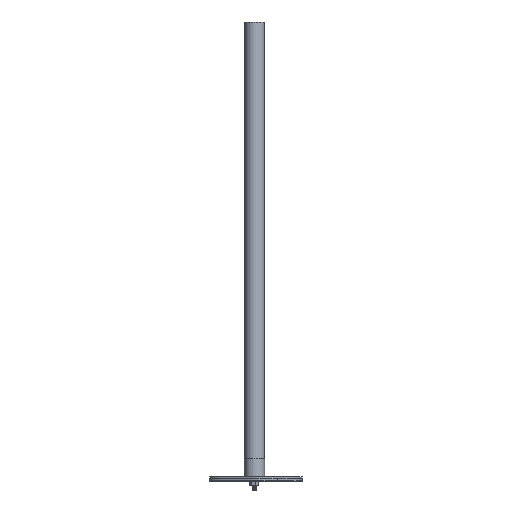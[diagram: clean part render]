
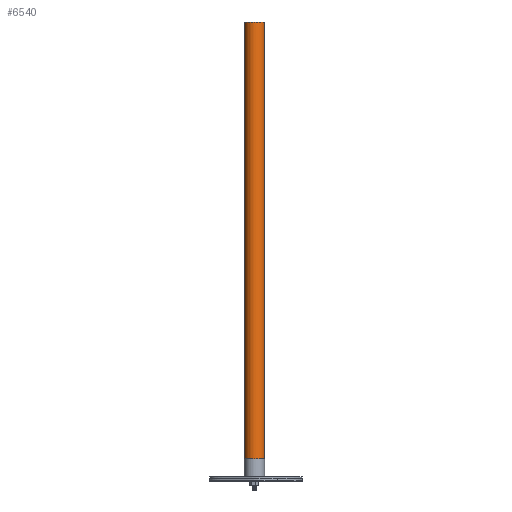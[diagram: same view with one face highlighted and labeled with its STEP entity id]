
A CAD part, front view. The second image highlights one B-rep face of the part: STEP entity #6540.
In plain terms, the highlighted cylindrical face has radius 13.716 mm (diameter 27.432 mm), a partial arc.
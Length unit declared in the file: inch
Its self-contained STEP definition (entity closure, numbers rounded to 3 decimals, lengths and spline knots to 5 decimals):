
#97 = EDGE_CURVE ( 'NONE', #12622, #8473, #13070, .T. ) ;
#517 = DIRECTION ( 'NONE',  ( 0., 0., -1. ) ) ;
#584 = EDGE_LOOP ( 'NONE', ( #4578, #8534, #12749, #1018 ) ) ;
#671 = DIRECTION ( 'NONE',  ( 1., 0., 0. ) ) ;
#672 = CARTESIAN_POINT ( 'NONE',  ( 0., 0., 0.54 ) ) ;
#1018 = ORIENTED_EDGE ( 'NONE', *, *, #14454, .F. ) ;
#2168 = VERTEX_POINT ( 'NONE', #5188 ) ;
#2330 = CARTESIAN_POINT ( 'NONE',  ( 0., 0., -0.54 ) ) ;
#2592 = LINE ( 'NONE', #2330, #13861 ) ;
#2649 = AXIS2_PLACEMENT_3D ( 'NONE', #6604, #6644, #6863 ) ;
#3654 = CARTESIAN_POINT ( 'NONE',  ( 0., 0., 0. ) ) ;
#3844 = LINE ( 'NONE', #9576, #7914 ) ;
#4578 = ORIENTED_EDGE ( 'NONE', *, *, #15845, .F. ) ;
#5188 = CARTESIAN_POINT ( 'NONE',  ( 0., 0., -0.54 ) ) ;
#6508 = DIRECTION ( 'NONE',  ( 1., 0., 0. ) ) ;
#6540 = ADVANCED_FACE ( 'NONE', ( #18843 ), #13807, .T. ) ;
#6604 = CARTESIAN_POINT ( 'NONE',  ( -24., 0., 0. ) ) ;
#6644 = DIRECTION ( 'NONE',  ( 1., 0., 0. ) ) ;
#6665 = CARTESIAN_POINT ( 'NONE',  ( -24., 0., -0.54 ) ) ;
#6863 = DIRECTION ( 'NONE',  ( 0., 0., -1. ) ) ;
#7914 = VECTOR ( 'NONE', #6508, 39.37008 ) ;
#8473 = VERTEX_POINT ( 'NONE', #6665 ) ;
#8534 = ORIENTED_EDGE ( 'NONE', *, *, #97, .T. ) ;
#9576 = CARTESIAN_POINT ( 'NONE',  ( 0., 0., 0.54 ) ) ;
#9890 = CARTESIAN_POINT ( 'NONE',  ( 0., 0., 0. ) ) ;
#10639 = EDGE_CURVE ( 'NONE', #8473, #2168, #2592, .T. ) ;
#11173 = AXIS2_PLACEMENT_3D ( 'NONE', #3654, #15917, #517 ) ;
#11446 = DIRECTION ( 'NONE',  ( 0., 0., -1. ) ) ;
#11516 = DIRECTION ( 'NONE',  ( 1., 0., 0. ) ) ;
#12443 = AXIS2_PLACEMENT_3D ( 'NONE', #9890, #671, #11446 ) ;
#12622 = VERTEX_POINT ( 'NONE', #18625 ) ;
#12749 = ORIENTED_EDGE ( 'NONE', *, *, #10639, .T. ) ;
#13044 = CIRCLE ( 'NONE', #12443, 0.54 ) ;
#13070 = CIRCLE ( 'NONE', #2649, 0.54 ) ;
#13807 = CYLINDRICAL_SURFACE ( 'NONE', #11173, 0.54 ) ;
#13861 = VECTOR ( 'NONE', #11516, 39.37008 ) ;
#14454 = EDGE_CURVE ( 'NONE', #18681, #2168, #13044, .T. ) ;
#15845 = EDGE_CURVE ( 'NONE', #12622, #18681, #3844, .T. ) ;
#15917 = DIRECTION ( 'NONE',  ( 1., 0., 0. ) ) ;
#18625 = CARTESIAN_POINT ( 'NONE',  ( -24., 0., 0.54 ) ) ;
#18681 = VERTEX_POINT ( 'NONE', #672 ) ;
#18843 = FACE_OUTER_BOUND ( 'NONE', #584, .T. ) ;
